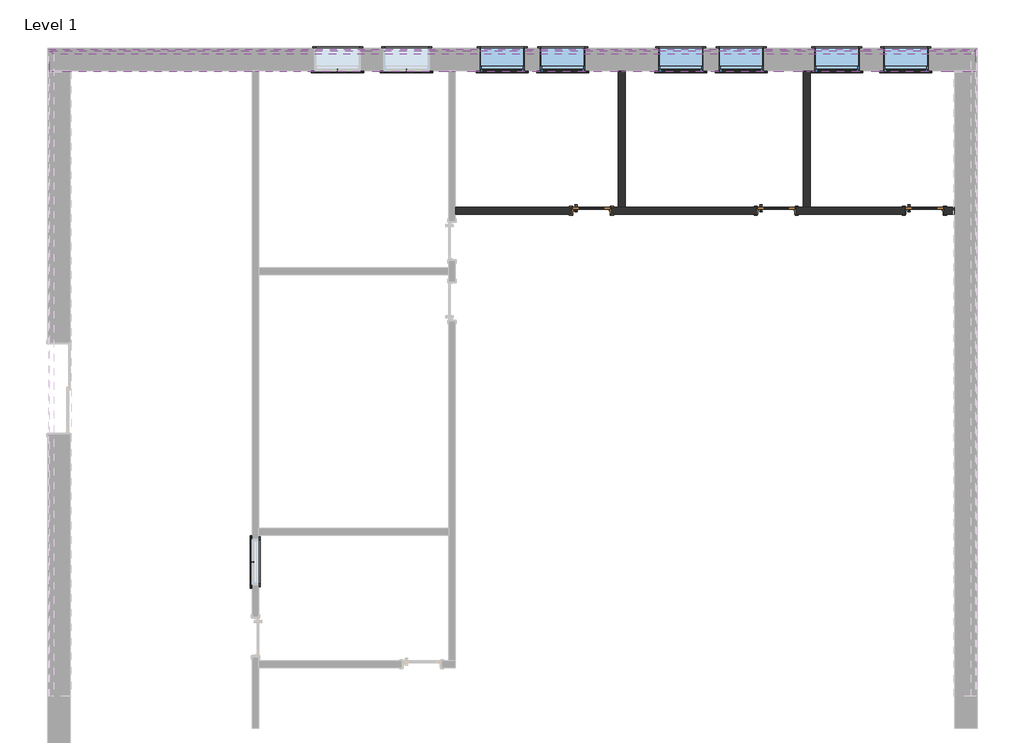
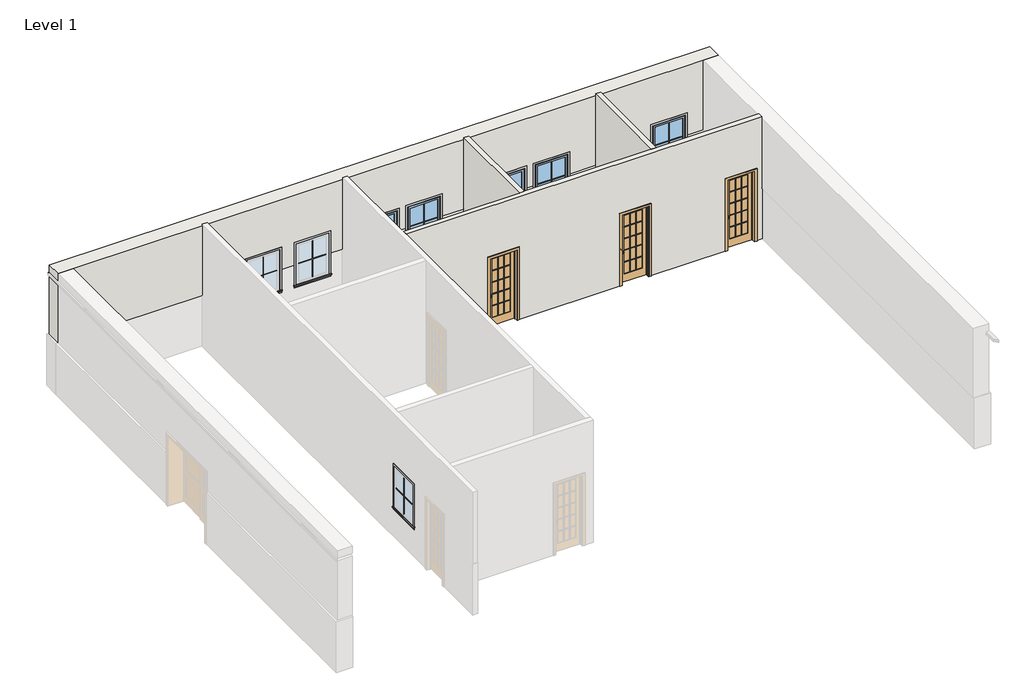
# One storey, part 2 of 2: 28 proxies, 6 windows, 4 walls, 3 doors.
"""IFC4 building model written with IfcOpenShell, lengths in millimetres."""

from ifc_helpers import new_model, si_unit, frame, origin, place, context, project, spatial, polyline, outline, extrude, faceted_brep, transform, mapped, element, save
from components import muntin_pattern_2x2_muntin_pattern_2x2_49331bd8, muntin_pattern_2x2_muntin_pattern_2x2_a8e7a107, trim_window_exterior_flat_with_sill_cdc255b3, trim_window_exterior_flat_with_sill_0ab60cae, trim_window_interior_flat_picture_frame_ab41cb78, trim_window_interior_flat_picture_frame_2efe6088, m_door_interior_single_full_glass_wood_750_x_2100mm_ded28596, window_awning_single_915_x_1220_66c2d390, window_awning_single_915_x_1220_806fc205

model = new_model("IFC4")

# Units and contexts
model_context = context("Model", 3, world=origin())
ifc_project = project(units=[si_unit("LENGTHUNIT", "METRE", prefix="MILLI")], contexts=[model_context])

# Site, building, storey
site = spatial("IfcSite", under=ifc_project)
building = spatial("IfcBuilding", under=site)
storey = spatial("IfcBuildingStorey", under=building, Name="Level 1", Elevation=0.0)

# Proxies
placement = place(None, origin())
element("IfcBuildingElementProxy", 1, Name="Reveals", at=placement, inside=storey, context=model_context, shape_type="SweptSolid", body=[
    extrude(outline(polyline([(-17378.8100037, 5434.2363466), (-17481.3100037, 5536.7363466), (1223.6899963, 5536.7363466), (1121.1899963, 5434.2363466), (-17378.8100037, 5434.2363466)])), frame((0.0, 0.0, 3300.0), z_axis=(0.0, 0.0, 1.0), x_axis=(1.0, 0.0, 0.0)), (0.0, 0.0, 1.0), 75.0),
])
muntin_pattern_2x2_muntin_pattern_2x2_shape = muntin_pattern_2x2_muntin_pattern_2x2_49331bd8(model_context)
element("IfcBuildingElementProxy", 2, Name="Muntin Pattern_2x2 : Muntin Pattern_2x2", ObjectType="Muntin Pattern_2x2 : Muntin Pattern_2x2", at=placement, inside=storey, context=model_context, shape_type="MappedRepresentation", body=[
    mapped(muntin_pattern_2x2_muntin_pattern_2x2_shape, transform((-13370.5350037, -4799.4136534, 984.25), x_axis=(0.0, 1.0, 0.0), y_axis=(-1.0, 0.0, 0.0), z_axis=(0.0, 0.0, 1.0))),
])
element("IfcBuildingElementProxy", 3, Name="Muntin Pattern_2x2 : Muntin Pattern_2x2", ObjectType="Muntin Pattern_2x2 : Muntin Pattern_2x2", at=placement, inside=storey, context=model_context, shape_type="MappedRepresentation", body=[
    mapped(muntin_pattern_2x2_muntin_pattern_2x2_shape, transform((-1590.3100037, 5107.7613466, 984.25), x_axis=(-1.0, 0.0, 0.0), y_axis=(0.0, -1.0, 0.0), z_axis=(0.0, 0.0, 1.0))),
])
element("IfcBuildingElementProxy", 4, Name="Muntin Pattern_2x2 : Muntin Pattern_2x2", ObjectType="Muntin Pattern_2x2 : Muntin Pattern_2x2", at=placement, inside=storey, context=model_context, shape_type="MappedRepresentation", body=[
    mapped(muntin_pattern_2x2_muntin_pattern_2x2_shape, transform((-198.934993, 5107.7613466, 984.25), x_axis=(-1.0, 0.0, 0.0), y_axis=(0.0, -1.0, 0.0), z_axis=(0.0, 0.0, 1.0))),
])
element("IfcBuildingElementProxy", 5, Name="Muntin Pattern_2x2 : Muntin Pattern_2x2", ObjectType="Muntin Pattern_2x2 : Muntin Pattern_2x2", at=placement, inside=storey, context=model_context, shape_type="MappedRepresentation", body=[
    mapped(muntin_pattern_2x2_muntin_pattern_2x2_shape, transform((-3517.3100037, 5107.7613466, 984.25), x_axis=(-1.0, 0.0, 0.0), y_axis=(0.0, -1.0, 0.0), z_axis=(0.0, 0.0, 1.0))),
])
element("IfcBuildingElementProxy", 6, Name="Muntin Pattern_2x2 : Muntin Pattern_2x2", ObjectType="Muntin Pattern_2x2 : Muntin Pattern_2x2", at=placement, inside=storey, context=model_context, shape_type="MappedRepresentation", body=[
    mapped(muntin_pattern_2x2_muntin_pattern_2x2_shape, transform((-4736.5100037, 5107.7613466, 984.25), x_axis=(-1.0, 0.0, 0.0), y_axis=(0.0, -1.0, 0.0), z_axis=(0.0, 0.0, 1.0))),
])
muntin_pattern_2x2_muntin_pattern_2x2_2_shape = muntin_pattern_2x2_muntin_pattern_2x2_a8e7a107(model_context)
element("IfcBuildingElementProxy", 7, Name="Muntin Pattern_2x2 : Muntin Pattern_2x2", ObjectType="Muntin Pattern_2x2 : Muntin Pattern_2x2", at=placement, inside=storey, context=model_context, shape_type="MappedRepresentation", body=[
    mapped(muntin_pattern_2x2_muntin_pattern_2x2_2_shape, transform((-10263.2100037, 5107.7613466, 984.25), x_axis=(1.0, 0.0, 0.0), y_axis=(0.0, 1.0, 0.0), z_axis=(0.0, 0.0, 1.0))),
])
element("IfcBuildingElementProxy", 8, Name="Muntin Pattern_2x2 : Muntin Pattern_2x2", ObjectType="Muntin Pattern_2x2 : Muntin Pattern_2x2", at=placement, inside=storey, context=model_context, shape_type="MappedRepresentation", body=[
    mapped(muntin_pattern_2x2_muntin_pattern_2x2_2_shape, transform((-11654.5850143, 5107.7613466, 984.25), x_axis=(1.0, 0.0, 0.0), y_axis=(0.0, 1.0, 0.0), z_axis=(0.0, 0.0, 1.0))),
])
element("IfcBuildingElementProxy", 9, Name="Muntin Pattern_2x2 : Muntin Pattern_2x2", ObjectType="Muntin Pattern_2x2 : Muntin Pattern_2x2", at=placement, inside=storey, context=model_context, shape_type="MappedRepresentation", body=[
    mapped(muntin_pattern_2x2_muntin_pattern_2x2_2_shape, transform((-8336.2100037, 5107.7613466, 984.25), x_axis=(1.0, 0.0, 0.0), y_axis=(0.0, 1.0, 0.0), z_axis=(0.0, 0.0, 1.0))),
])
element("IfcBuildingElementProxy", 10, Name="Muntin Pattern_2x2 : Muntin Pattern_2x2", ObjectType="Muntin Pattern_2x2 : Muntin Pattern_2x2", at=placement, inside=storey, context=model_context, shape_type="MappedRepresentation", body=[
    mapped(muntin_pattern_2x2_muntin_pattern_2x2_2_shape, transform((-7117.0100037, 5107.7613466, 984.25), x_axis=(1.0, 0.0, 0.0), y_axis=(0.0, 1.0, 0.0), z_axis=(0.0, 0.0, 1.0))),
])
trim_window_exterior_flat_with_sill_shape = trim_window_exterior_flat_with_sill_cdc255b3(model_context)
element("IfcBuildingElementProxy", 11, Name="Trim-Window-Exterior-Flat : with Sill", ObjectType="Trim-Window-Exterior-Flat : with Sill", at=placement, inside=storey, context=model_context, shape_type="MappedRepresentation", body=[
    mapped(trim_window_exterior_flat_with_sill_shape, transform((-13380.0600037, -4799.4136534, 2134.4), x_axis=(0.0, -1.0, 0.0), y_axis=(0.0, 0.0, 1.0), z_axis=(-1.0, 0.0, 0.0))),
])
element("IfcBuildingElementProxy", 12, Name="Trim-Window-Exterior-Flat : with Sill", ObjectType="Trim-Window-Exterior-Flat : with Sill", at=placement, inside=storey, context=model_context, shape_type="MappedRepresentation", body=[
    mapped(trim_window_exterior_flat_with_sill_shape, transform((-1590.3100037, 5098.2363466, 2134.4), x_axis=(1.0, 0.0, 0.0), y_axis=(0.0, 0.0, 1.0), z_axis=(0.0, -1.0, 0.0))),
])
element("IfcBuildingElementProxy", 13, Name="Trim-Window-Exterior-Flat : with Sill", ObjectType="Trim-Window-Exterior-Flat : with Sill", at=placement, inside=storey, context=model_context, shape_type="MappedRepresentation", body=[
    mapped(trim_window_exterior_flat_with_sill_shape, transform((-198.934993, 5098.2363466, 2134.4), x_axis=(1.0, 0.0, 0.0), y_axis=(0.0, 0.0, 1.0), z_axis=(0.0, -1.0, 0.0))),
])
element("IfcBuildingElementProxy", 14, Name="Trim-Window-Exterior-Flat : with Sill", ObjectType="Trim-Window-Exterior-Flat : with Sill", at=placement, inside=storey, context=model_context, shape_type="MappedRepresentation", body=[
    mapped(trim_window_exterior_flat_with_sill_shape, transform((-3517.3100037, 5098.2363466, 2134.4), x_axis=(1.0, 0.0, 0.0), y_axis=(0.0, 0.0, 1.0), z_axis=(0.0, -1.0, 0.0))),
])
element("IfcBuildingElementProxy", 15, Name="Trim-Window-Exterior-Flat : with Sill", ObjectType="Trim-Window-Exterior-Flat : with Sill", at=placement, inside=storey, context=model_context, shape_type="MappedRepresentation", body=[
    mapped(trim_window_exterior_flat_with_sill_shape, transform((-4736.5100037, 5098.2363466, 2134.4), x_axis=(1.0, 0.0, 0.0), y_axis=(0.0, 0.0, 1.0), z_axis=(0.0, -1.0, 0.0))),
])
trim_window_exterior_flat_with_sill_2_shape = trim_window_exterior_flat_with_sill_0ab60cae(model_context)
element("IfcBuildingElementProxy", 16, Name="Trim-Window-Exterior-Flat : with Sill", ObjectType="Trim-Window-Exterior-Flat : with Sill", at=placement, inside=storey, context=model_context, shape_type="MappedRepresentation", body=[
    mapped(trim_window_exterior_flat_with_sill_2_shape, transform((-10263.2100037, 5098.2363466, 2134.4), x_axis=(-1.0, 0.0, 0.0), y_axis=(0.0, 0.0, -1.0), z_axis=(0.0, -1.0, 0.0))),
])
element("IfcBuildingElementProxy", 17, Name="Trim-Window-Exterior-Flat : with Sill", ObjectType="Trim-Window-Exterior-Flat : with Sill", at=placement, inside=storey, context=model_context, shape_type="MappedRepresentation", body=[
    mapped(trim_window_exterior_flat_with_sill_2_shape, transform((-11654.5850143, 5098.2363466, 2134.4), x_axis=(-1.0, 0.0, 0.0), y_axis=(0.0, 0.0, -1.0), z_axis=(0.0, -1.0, 0.0))),
])
element("IfcBuildingElementProxy", 18, Name="Trim-Window-Exterior-Flat : with Sill", ObjectType="Trim-Window-Exterior-Flat : with Sill", at=placement, inside=storey, context=model_context, shape_type="MappedRepresentation", body=[
    mapped(trim_window_exterior_flat_with_sill_2_shape, transform((-8336.2100037, 5098.2363466, 2134.4), x_axis=(-1.0, 0.0, 0.0), y_axis=(0.0, 0.0, -1.0), z_axis=(0.0, -1.0, 0.0))),
])
element("IfcBuildingElementProxy", 19, Name="Trim-Window-Exterior-Flat : with Sill", ObjectType="Trim-Window-Exterior-Flat : with Sill", at=placement, inside=storey, context=model_context, shape_type="MappedRepresentation", body=[
    mapped(trim_window_exterior_flat_with_sill_2_shape, transform((-7117.0100037, 5098.2363466, 2134.4), x_axis=(-1.0, 0.0, 0.0), y_axis=(0.0, 0.0, -1.0), z_axis=(0.0, -1.0, 0.0))),
])
trim_window_interior_flat_picture_frame_shape = trim_window_interior_flat_picture_frame_ab41cb78(model_context)
element("IfcBuildingElementProxy", 20, Name="Trim-Window-Interior-Flat : Picture Frame", ObjectType="Trim-Window-Interior-Flat : Picture Frame", at=placement, inside=storey, context=model_context, shape_type="MappedRepresentation", body=[
    mapped(trim_window_interior_flat_picture_frame_shape, transform((-13241.5600037, -4799.4136534, 2134.4), x_axis=(0.0, 1.0, 0.0), y_axis=(0.0, 0.0, 1.0), z_axis=(1.0, 0.0, 0.0))),
])
element("IfcBuildingElementProxy", 21, Name="Trim-Window-Interior-Flat : Picture Frame", ObjectType="Trim-Window-Interior-Flat : Picture Frame", at=placement, inside=storey, context=model_context, shape_type="MappedRepresentation", body=[
    mapped(trim_window_interior_flat_picture_frame_shape, transform((-1590.3100037, 5558.2363466, 2134.4), x_axis=(-1.0, 0.0, 0.0), y_axis=(0.0, 0.0, 1.0), z_axis=(0.0, 1.0, 0.0))),
])
element("IfcBuildingElementProxy", 22, Name="Trim-Window-Interior-Flat : Picture Frame", ObjectType="Trim-Window-Interior-Flat : Picture Frame", at=placement, inside=storey, context=model_context, shape_type="MappedRepresentation", body=[
    mapped(trim_window_interior_flat_picture_frame_shape, transform((-198.934993, 5558.2363466, 2134.4), x_axis=(-1.0, 0.0, 0.0), y_axis=(0.0, 0.0, 1.0), z_axis=(0.0, 1.0, 0.0))),
])
element("IfcBuildingElementProxy", 23, Name="Trim-Window-Interior-Flat : Picture Frame", ObjectType="Trim-Window-Interior-Flat : Picture Frame", at=placement, inside=storey, context=model_context, shape_type="MappedRepresentation", body=[
    mapped(trim_window_interior_flat_picture_frame_shape, transform((-3517.3100037, 5558.2363466, 2134.4), x_axis=(-1.0, 0.0, 0.0), y_axis=(0.0, 0.0, 1.0), z_axis=(0.0, 1.0, 0.0))),
])
element("IfcBuildingElementProxy", 24, Name="Trim-Window-Interior-Flat : Picture Frame", ObjectType="Trim-Window-Interior-Flat : Picture Frame", at=placement, inside=storey, context=model_context, shape_type="MappedRepresentation", body=[
    mapped(trim_window_interior_flat_picture_frame_shape, transform((-4736.5100037, 5558.2363466, 2134.4), x_axis=(-1.0, 0.0, 0.0), y_axis=(0.0, 0.0, 1.0), z_axis=(0.0, 1.0, 0.0))),
])
trim_window_interior_flat_picture_frame_2_shape = trim_window_interior_flat_picture_frame_2efe6088(model_context)
element("IfcBuildingElementProxy", 25, Name="Trim-Window-Interior-Flat : Picture Frame", ObjectType="Trim-Window-Interior-Flat : Picture Frame", at=placement, inside=storey, context=model_context, shape_type="MappedRepresentation", body=[
    mapped(trim_window_interior_flat_picture_frame_2_shape, transform((-10263.2100037, 5558.2363466, 2134.4), x_axis=(1.0, 0.0, 0.0), y_axis=(0.0, 0.0, -1.0), z_axis=(0.0, 1.0, 0.0))),
])
element("IfcBuildingElementProxy", 26, Name="Trim-Window-Interior-Flat : Picture Frame", ObjectType="Trim-Window-Interior-Flat : Picture Frame", at=placement, inside=storey, context=model_context, shape_type="MappedRepresentation", body=[
    mapped(trim_window_interior_flat_picture_frame_2_shape, transform((-11654.5850143, 5558.2363466, 2134.4), x_axis=(1.0, 0.0, 0.0), y_axis=(0.0, 0.0, -1.0), z_axis=(0.0, 1.0, 0.0))),
])
element("IfcBuildingElementProxy", 27, Name="Trim-Window-Interior-Flat : Picture Frame", ObjectType="Trim-Window-Interior-Flat : Picture Frame", at=placement, inside=storey, context=model_context, shape_type="MappedRepresentation", body=[
    mapped(trim_window_interior_flat_picture_frame_2_shape, transform((-8336.2100037, 5558.2363466, 2134.4), x_axis=(1.0, 0.0, 0.0), y_axis=(0.0, 0.0, -1.0), z_axis=(0.0, 1.0, 0.0))),
])
element("IfcBuildingElementProxy", 28, Name="Trim-Window-Interior-Flat : Picture Frame", ObjectType="Trim-Window-Interior-Flat : Picture Frame", at=placement, inside=storey, context=model_context, shape_type="MappedRepresentation", body=[
    mapped(trim_window_interior_flat_picture_frame_2_shape, transform((-7117.0100037, 5558.2363466, 2134.4), x_axis=(1.0, 0.0, 0.0), y_axis=(0.0, 0.0, -1.0), z_axis=(0.0, 1.0, 0.0))),
])

# Doors
m_door_interior_single_full_glass_wood_750_x_2100mm_shape = m_door_interior_single_full_glass_wood_750_x_2100mm_ded28596(model_context)
element("IfcDoor", 29, ObjectType="M_Door-Interior-Single-Full Glass-Wood : 750 x 2100mm", at=placement, inside=storey, context=model_context, shape_type="MappedRepresentation", body=[
    mapped(m_door_interior_single_full_glass_wood_750_x_2100mm_shape, transform((-6536.3600037, 2283.4113466, 0.0), x_axis=(1.0, 0.0, 0.0), y_axis=(0.0, 1.0, 0.0), z_axis=(0.0, 0.0, 1.0))),
])
element("IfcDoor", 30, ObjectType="M_Door-Interior-Single-Full Glass-Wood : 750 x 2100mm", at=placement, inside=storey, context=model_context, shape_type="MappedRepresentation", body=[
    mapped(m_door_interior_single_full_glass_wood_750_x_2100mm_shape, transform((-2809.5100037, 2283.4113466, 0.0), x_axis=(1.0, 0.0, 0.0), y_axis=(0.0, 1.0, 0.0), z_axis=(0.0, 0.0, 1.0))),
])
element("IfcDoor", 31, ObjectType="M_Door-Interior-Single-Full Glass-Wood : 750 x 2100mm", at=placement, inside=storey, context=model_context, shape_type="MappedRepresentation", body=[
    mapped(m_door_interior_single_full_glass_wood_750_x_2100mm_shape, transform((175.5899963, 2283.4113466, 0.0), x_axis=(1.0, 0.0, 0.0), y_axis=(0.0, 1.0, 0.0), z_axis=(0.0, 0.0, 1.0))),
])

# Walls
element("IfcWall", 32, ObjectType="Exterior - Render on Brick on Block", at=placement, inside=storey, context=model_context, shape_type="Brep", body=[
    faceted_brep([(1196.1899963, 5080.2363466, 3600.0), (767.1899963, 5080.2363466, 3600.0), (-17024.8100037, 5080.2363466, 3600.0), (-17453.8100037, 5080.2363466, 3600.0), (-17453.8100037, 5080.2363466, 3375.0), (-17378.8100037, 5080.2363466, 3375.0), (-17378.8100037, 5080.2363466, 3300.0), (-17453.8100037, 5080.2363466, 3300.0), (-17453.8100037, 5080.2363466, 1524.0), (-17024.8100037, 5080.2363466, 1524.0), (-13380.0600037, 5080.2363466, 1524.0), (-13241.5600037, 5080.2363466, 1524.0), (-12112.0850143, 5080.2363466, 1524.0), (-12112.0850143, 5080.2363466, 2134.4), (-11197.0850143, 5080.2363466, 2134.4), (-11197.0850143, 5080.2363466, 1524.0), (-10720.7100037, 5080.2363466, 1524.0), (-10720.7100037, 5080.2363466, 2134.4), (-9805.7100037, 5080.2363466, 2134.4), (-9805.7100037, 5080.2363466, 1524.0), (-9418.0600037, 5080.2363466, 1524.0), (-9279.5600037, 5080.2363466, 1524.0), (-8793.7100037, 5080.2363466, 1524.0), (-8793.7100037, 5080.2363466, 2134.4), (-7878.7100037, 5080.2363466, 2134.4), (-7878.7100037, 5080.2363466, 1524.0), (-7574.5100037, 5080.2363466, 1524.0), (-7574.5100037, 5080.2363466, 2134.4), (-6659.5100037, 5080.2363466, 2134.4), (-6659.5100037, 5080.2363466, 1524.0), (-5996.0100037, 5080.2363466, 1524.0), (-5857.5100037, 5080.2363466, 1524.0), (-5194.0100037, 5080.2363466, 1524.0), (-5194.0100037, 5080.2363466, 2134.4), (-4279.0100037, 5080.2363466, 2134.4), (-4279.0100037, 5080.2363466, 1524.0), (-3974.8100037, 5080.2363466, 1524.0), (-3974.8100037, 5080.2363466, 2134.4), (-3059.8100037, 5080.2363466, 2134.4), (-3059.8100037, 5080.2363466, 1524.0), (-2269.1600037, 5080.2363466, 1524.0), (-2130.6600037, 5080.2363466, 1524.0), (-2047.8100037, 5080.2363466, 1524.0), (-2047.8100037, 5080.2363466, 2134.4), (-1132.8100037, 5080.2363466, 2134.4), (-1132.8100037, 5080.2363466, 1524.0), (-656.434993, 5080.2363466, 1524.0), (-656.434993, 5080.2363466, 2134.4), (258.565007, 5080.2363466, 2134.4), (258.565007, 5080.2363466, 1524.0), (767.1899963, 5080.2363466, 1524.0), (1196.1899963, 5080.2363466, 1524.0), (1196.1899963, 5080.2363466, 3300.0), (1121.1899963, 5080.2363466, 3300.0), (1121.1899963, 5080.2363466, 3375.0), (1196.1899963, 5080.2363466, 3375.0), (-17453.8100037, 5509.2363466, 3600.0), (1196.1899963, 5509.2363466, 3600.0), (1196.1899963, 5509.2363466, 3375.0), (-17453.8100037, 5509.2363466, 3375.0), (-2047.8100037, 5509.2363466, 2134.4), (-2047.8100037, 5509.2363466, 1524.0), (-3059.8100037, 5509.2363466, 1524.0), (-3059.8100037, 5509.2363466, 2134.4), (-3974.8100037, 5509.2363466, 2134.4), (-3974.8100037, 5509.2363466, 1524.0), (-4279.0100037, 5509.2363466, 1524.0), (-4279.0100037, 5509.2363466, 2134.4), (-5194.0100037, 5509.2363466, 2134.4), (-5194.0100037, 5509.2363466, 1524.0), (-6659.5100037, 5509.2363466, 1524.0), (-6659.5100037, 5509.2363466, 2134.4), (-7574.5100037, 5509.2363466, 2134.4), (-7574.5100037, 5509.2363466, 1524.0), (-7878.7100037, 5509.2363466, 1524.0), (-7878.7100037, 5509.2363466, 2134.4), (-8793.7100037, 5509.2363466, 2134.4), (-8793.7100037, 5509.2363466, 1524.0), (-9805.7100037, 5509.2363466, 1524.0), (-9805.7100037, 5509.2363466, 2134.4), (-10720.7100037, 5509.2363466, 2134.4), (-10720.7100037, 5509.2363466, 1524.0), (-11197.0850143, 5509.2363466, 1524.0), (-11197.0850143, 5509.2363466, 2134.4), (-12112.0850143, 5509.2363466, 2134.4), (-12112.0850143, 5509.2363466, 1524.0), (-17453.8100037, 5509.2363466, 1524.0), (-17453.8100037, 5509.2363466, 3300.0), (1196.1899963, 5509.2363466, 3300.0), (1196.1899963, 5509.2363466, 1524.0), (258.565007, 5509.2363466, 1524.0), (258.565007, 5509.2363466, 2134.4), (-656.434993, 5509.2363466, 2134.4), (-656.434993, 5509.2363466, 1524.0), (-1132.8100037, 5509.2363466, 1524.0), (-1132.8100037, 5509.2363466, 2134.4), (1196.1899963, 5484.2363466, 1524.0), (258.565007, 5098.2363466, 1524.0), (258.565007, 5484.2363466, 1524.0), (-17453.8100037, 5484.2363466, 1524.0), (-12112.0850143, 5484.2363466, 1524.0), (-12112.0850143, 5098.2363466, 1524.0), (-2047.8100037, 5484.2363466, 1524.0), (-2047.8100037, 5098.2363466, 1524.0), (-3059.8100037, 5098.2363466, 1524.0), (-3059.8100037, 5484.2363466, 1524.0), (-1132.8100037, 5098.2363466, 1524.0), (-1132.8100037, 5484.2363466, 1524.0), (-656.434993, 5484.2363466, 1524.0), (-656.434993, 5098.2363466, 1524.0), (-3974.8100037, 5484.2363466, 1524.0), (-3974.8100037, 5098.2363466, 1524.0), (-4279.0100037, 5098.2363466, 1524.0), (-4279.0100037, 5484.2363466, 1524.0), (-5194.0100037, 5484.2363466, 1524.0), (-5194.0100037, 5098.2363466, 1524.0), (-6659.5100037, 5098.2363466, 1524.0), (-6659.5100037, 5484.2363466, 1524.0), (-7574.5100037, 5484.2363466, 1524.0), (-7574.5100037, 5098.2363466, 1524.0), (-7878.7100037, 5098.2363466, 1524.0), (-7878.7100037, 5484.2363466, 1524.0), (-8793.7100037, 5484.2363466, 1524.0), (-8793.7100037, 5098.2363466, 1524.0), (-9805.7100037, 5098.2363466, 1524.0), (-9805.7100037, 5484.2363466, 1524.0), (-11197.0850143, 5098.2363466, 1524.0), (-11197.0850143, 5484.2363466, 1524.0), (-10720.7100037, 5484.2363466, 1524.0), (-10720.7100037, 5098.2363466, 1524.0), (-17378.8100037, 5434.2363466, 3375.0), (1121.1899963, 5434.2363466, 3375.0), (1121.1899963, 5434.2363466, 3300.0), (-17378.8100037, 5434.2363466, 3300.0)], [[[0, 1, 2, 3, 4, 5, 6, 7, 8, 9, 10, 11, 12, 13, 14, 15, 16, 17, 18, 19, 20, 21, 22, 23, 24, 25, 26, 27, 28, 29, 30, 31, 32, 33, 34, 35, 36, 37, 38, 39, 40, 41, 42, 43, 44, 45, 46, 47, 48, 49, 50, 51, 52, 53, 54, 55]], [[56, 57, 58, 59]], [[60, 61, 62, 63, 64, 65, 66, 67, 68, 69, 70, 71, 72, 73, 74, 75, 76, 77, 78, 79, 80, 81, 82, 83, 84, 85, 86, 87, 88, 89, 90, 91, 92, 93, 94, 95]], [[3, 2, 1, 0, 57, 56]], [[96, 51, 50, 49, 97, 98]], [[8, 99, 100, 101, 12, 11, 10, 9]], [[102, 103, 42, 41, 40, 39, 104, 105]], [[45, 106, 107, 108, 109, 46]], [[110, 111, 36, 35, 112, 113]], [[114, 115, 32, 31, 30, 29, 116, 117]], [[118, 119, 26, 25, 120, 121]], [[122, 123, 22, 21, 20, 19, 124, 125]], [[15, 126, 127, 128, 129, 16]], [[130, 131, 132, 133]], [[3, 56, 59, 4]], [[99, 8, 7, 87, 86]], [[57, 0, 55, 58]], [[51, 96, 89, 88, 52]], [[99, 86, 85, 100]], [[89, 96, 98, 90]], [[61, 102, 105, 62]], [[107, 94, 93, 108]], [[65, 110, 113, 66]], [[69, 114, 117, 70]], [[73, 118, 121, 74]], [[77, 122, 125, 78]], [[127, 82, 81, 128]], [[131, 130, 5, 4, 59, 58, 55, 54]], [[133, 132, 53, 52, 88, 87, 7, 6]], [[130, 133, 6, 5]], [[132, 131, 54, 53]], [[60, 43, 42, 103, 102, 61]], [[44, 95, 94, 107, 106, 45]], [[43, 60, 95, 44]], [[92, 47, 46, 109, 108, 93]], [[48, 91, 90, 98, 97, 49]], [[47, 92, 91, 48]], [[64, 37, 36, 111, 110, 65]], [[38, 63, 62, 105, 104, 39]], [[37, 64, 63, 38]], [[68, 33, 32, 115, 114, 69]], [[34, 67, 66, 113, 112, 35]], [[33, 68, 67, 34]], [[28, 71, 70, 117, 116, 29]], [[72, 27, 26, 119, 118, 73]], [[71, 28, 27, 72]], [[24, 75, 74, 121, 120, 25]], [[76, 23, 22, 123, 122, 77]], [[75, 24, 23, 76]], [[14, 83, 82, 127, 126, 15]], [[84, 13, 12, 101, 100, 85]], [[83, 14, 13, 84]], [[18, 79, 78, 125, 124, 19]], [[80, 17, 16, 129, 128, 81]], [[79, 18, 17, 80]]]),
])
element("IfcWall", 33, ObjectType="Interior - 138mm Partition (1-hr)", at=placement, inside=storey, context=model_context, shape_type="Brep", body=[
    faceted_brep([(767.1899963, 2210.9863466, 3658.0), (-9279.5600037, 2210.9863466, 3658.0), (-9279.5600037, 2210.9863466, 0.0), (-6936.3600037, 2210.9863466, 0.0), (-6936.3600037, 2210.9863466, 2125.0), (-6136.3600037, 2210.9863466, 2125.0), (-6136.3600037, 2210.9863466, 0.0), (-3209.5100037, 2210.9863466, 0.0), (-3209.5100037, 2210.9863466, 2125.0), (-2409.5100037, 2210.9863466, 2125.0), (-2409.5100037, 2210.9863466, 0.0), (-224.4100037, 2210.9863466, 0.0), (-224.4100037, 2210.9863466, 2125.0), (575.5899963, 2210.9863466, 2125.0), (575.5899963, 2210.9863466, 0.0), (785.1899963, 2210.9863466, 0.0), (785.1899963, 2210.9863466, 1524.0), (767.1899963, 2210.9863466, 1524.0), (-9279.5600037, 2349.4863466, 3658.0), (-5996.0100037, 2349.4863466, 3658.0), (-5857.5100037, 2349.4863466, 3658.0), (-2269.1600037, 2349.4863466, 3658.0), (-2130.6600037, 2349.4863466, 3658.0), (767.1899963, 2349.4863466, 3658.0), (767.1899963, 2349.4863466, 1524.0), (785.1899963, 2349.4863466, 1524.0), (785.1899963, 2349.4863466, 0.0), (575.5899963, 2349.4863466, 0.0), (575.5899963, 2349.4863466, 2125.0), (-224.4100037, 2349.4863466, 2125.0), (-224.4100037, 2349.4863466, 0.0), (-2130.6600037, 2349.4863466, 0.0), (-2269.1600037, 2349.4863466, 0.0), (-2409.5100037, 2349.4863466, 0.0), (-2409.5100037, 2349.4863466, 2125.0), (-3209.5100037, 2349.4863466, 2125.0), (-3209.5100037, 2349.4863466, 0.0), (-5857.5100037, 2349.4863466, 0.0), (-5996.0100037, 2349.4863466, 0.0), (-6136.3600037, 2349.4863466, 0.0), (-6136.3600037, 2349.4863466, 2125.0), (-6936.3600037, 2349.4863466, 2125.0), (-6936.3600037, 2349.4863466, 0.0), (-9279.5600037, 2349.4863466, 0.0)], [[[0, 1, 2, 3, 4, 5, 6, 7, 8, 9, 10, 11, 12, 13, 14, 15, 16, 17]], [[18, 19, 20, 21, 22, 23, 24, 25, 26, 27, 28, 29, 30, 31, 32, 33, 34, 35, 36, 37, 38, 39, 40, 41, 42, 43]], [[2, 43, 42, 3]], [[26, 15, 14, 27]], [[6, 39, 38, 37, 36, 7]], [[10, 33, 32, 31, 30, 11]], [[1, 0, 23, 22, 21, 20, 19, 18]], [[17, 16, 25, 24]], [[16, 15, 26, 25]], [[0, 17, 24, 23]], [[2, 1, 18, 43]], [[5, 40, 39, 6]], [[40, 5, 4, 41]], [[41, 4, 3, 42]], [[9, 34, 33, 10]], [[34, 9, 8, 35]], [[35, 8, 7, 36]], [[13, 28, 27, 14]], [[28, 13, 12, 29]], [[29, 12, 11, 30]]]),
])
element("IfcWall", 34, ObjectType="Interior - 138mm Partition (1-hr)", at=placement, inside=storey, context=model_context, shape_type="SweptSolid", body=[
    extrude(outline(polyline([(5098.2363466, 0.0), (2349.4863466, 0.0), (2349.4863466, 3658.0), (5080.2363466, 3658.0), (5080.2363466, 1524.0), (5098.2363466, 1524.0), (5098.2363466, 0.0)])), frame((-5996.0100037, 0.0, 0.0), z_axis=(1.0, 0.0, 0.0), x_axis=(0.0, 1.0, 0.0)), (0.0, 0.0, 1.0), 138.5),
])
element("IfcWall", 35, ObjectType="Interior - 138mm Partition (1-hr)", at=placement, inside=storey, context=model_context, shape_type="SweptSolid", body=[
    extrude(outline(polyline([(5098.2363466, 0.0), (2349.4863466, 0.0), (2349.4863466, 3658.0), (5080.2363466, 3658.0), (5080.2363466, 1524.0), (5098.2363466, 1524.0), (5098.2363466, 0.0)])), frame((-2269.1600037, 0.0, 0.0), z_axis=(1.0, 0.0, 0.0), x_axis=(0.0, 1.0, 0.0)), (0.0, 0.0, 1.0), 138.5),
])

# Windows
window_awning_single_915_x_1220_shape = window_awning_single_915_x_1220_66c2d390(model_context)
element("IfcWindow", 36, ObjectType="Window-Awning-Single : 915 X 1220", at=placement, inside=storey, context=model_context, shape_type="MappedRepresentation", body=[
    mapped(window_awning_single_915_x_1220_shape, transform((-1590.3100037, 5328.2363466, 0.0), x_axis=(-1.0, 0.0, 0.0), y_axis=(0.0, -1.0, 0.0), z_axis=(0.0, 0.0, 1.0))),
])
element("IfcWindow", 37, ObjectType="Window-Awning-Single : 915 X 1220", at=placement, inside=storey, context=model_context, shape_type="MappedRepresentation", body=[
    mapped(window_awning_single_915_x_1220_shape, transform((-198.934993, 5328.2363466, 0.0), x_axis=(-1.0, 0.0, 0.0), y_axis=(0.0, -1.0, 0.0), z_axis=(0.0, 0.0, 1.0))),
])
element("IfcWindow", 38, ObjectType="Window-Awning-Single : 915 X 1220", at=placement, inside=storey, context=model_context, shape_type="MappedRepresentation", body=[
    mapped(window_awning_single_915_x_1220_shape, transform((-3517.3100037, 5328.2363466, 0.0), x_axis=(-1.0, 0.0, 0.0), y_axis=(0.0, -1.0, 0.0), z_axis=(0.0, 0.0, 1.0))),
])
element("IfcWindow", 39, ObjectType="Window-Awning-Single : 915 X 1220", at=placement, inside=storey, context=model_context, shape_type="MappedRepresentation", body=[
    mapped(window_awning_single_915_x_1220_shape, transform((-4736.5100037, 5328.2363466, 0.0), x_axis=(-1.0, 0.0, 0.0), y_axis=(0.0, -1.0, 0.0), z_axis=(0.0, 0.0, 1.0))),
])
window_awning_single_915_x_1220_2_shape = window_awning_single_915_x_1220_806fc205(model_context)
element("IfcWindow", 40, ObjectType="Window-Awning-Single : 915 X 1220", at=placement, inside=storey, context=model_context, shape_type="MappedRepresentation", body=[
    mapped(window_awning_single_915_x_1220_2_shape, transform((-8336.2100037, 5328.2363466, 0.0), x_axis=(1.0, 0.0, 0.0), y_axis=(0.0, 1.0, 0.0), z_axis=(0.0, 0.0, 1.0))),
])
element("IfcWindow", 41, ObjectType="Window-Awning-Single : 915 X 1220", at=placement, inside=storey, context=model_context, shape_type="MappedRepresentation", body=[
    mapped(window_awning_single_915_x_1220_2_shape, transform((-7117.0100037, 5328.2363466, 0.0), x_axis=(1.0, 0.0, 0.0), y_axis=(0.0, 1.0, 0.0), z_axis=(0.0, 0.0, 1.0))),
])

save(model, "model.ifc")
